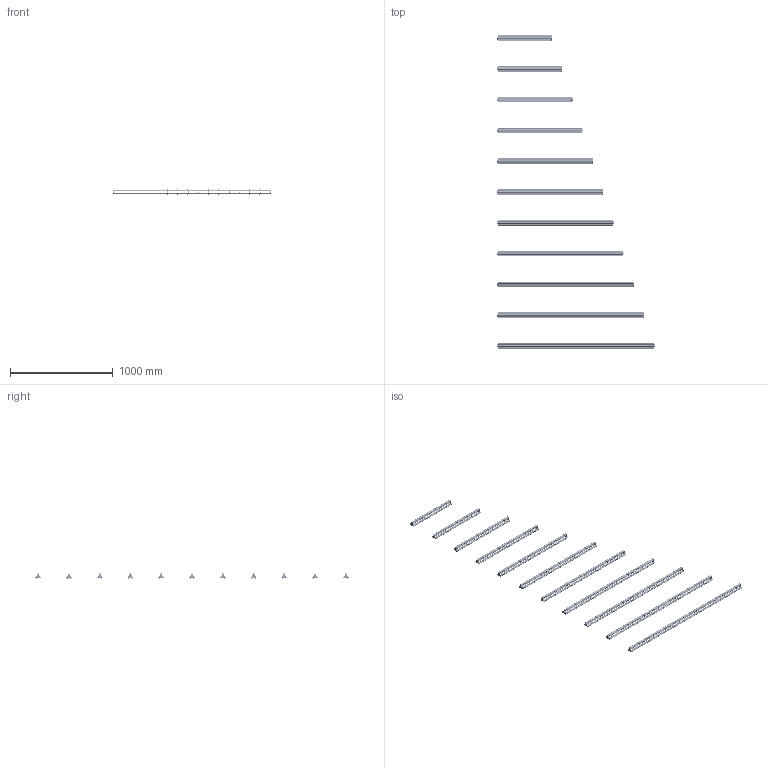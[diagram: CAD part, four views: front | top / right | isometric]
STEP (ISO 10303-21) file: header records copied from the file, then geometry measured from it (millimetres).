
FILE_DESCRIPTION(/* description */ (''),/* implementation_level */ '2;1');
FILE_NAME(/* name */ 'C:/Users/elena/OneDrive/Allegati di posta elettronica/Desktop/Piko tris 03T.step',/* time_stamp */ '2020-05-21T12:21:48+02:00',/* author */ (''),/* organization */ (''),/* preprocessor_version */ 'ST-DEVELOPER v18.1',/* originating_system */ 'Autodesk Translation Framework v9.3.0.1241',/* authorisation */ '');
FILE_SCHEMA (('AUTOMOTIVE_DESIGN { 1 0 10303 214 3 1 1 }'));
Products named in the file (2): Piko tris 03T; _03T v1
Assembly tree (1 placements, depth 2):
  Piko tris 03T
    _03T v1
Bounding box: 1536 x 3054.46 x 49.88 mm (x, y, z)
Volume: 8246906.3 mm3; surface area: 4046975.3 mm2
Topology: 154 solids, 176 shells, 11174 faces, 31179 edges, 20775 vertices
Faces by surface type: plane 7742, cylinder 3366, cone 66
Full cylindrical faces by diameter (mm): 2.5 x132, 3 x110, 8 x44, 19.8 x66
Entity records: 358560 total; most frequent: CARTESIAN_POINT 63131, ORIENTED_EDGE 62358, DIRECTION 60331, EDGE_CURVE 31179, LINE 24381, VECTOR 24381, VERTEX_POINT 20775, AXIS2_PLACEMENT_3D 17975
